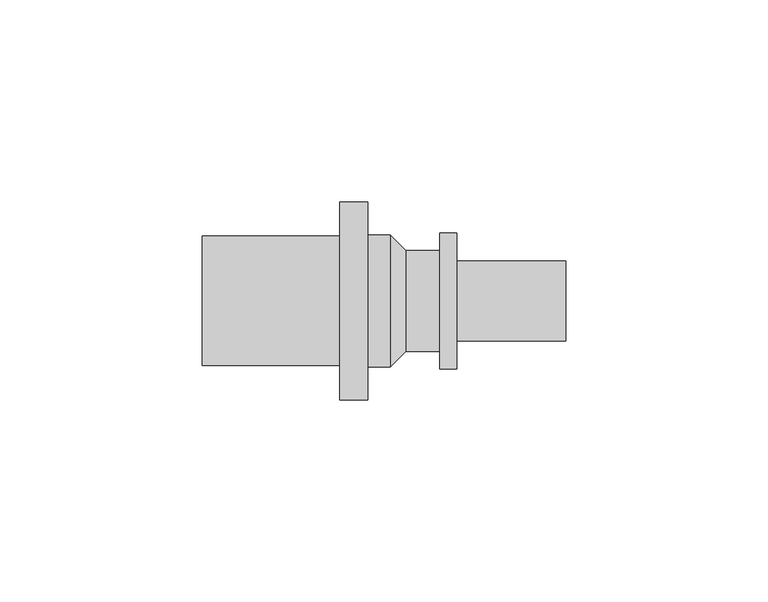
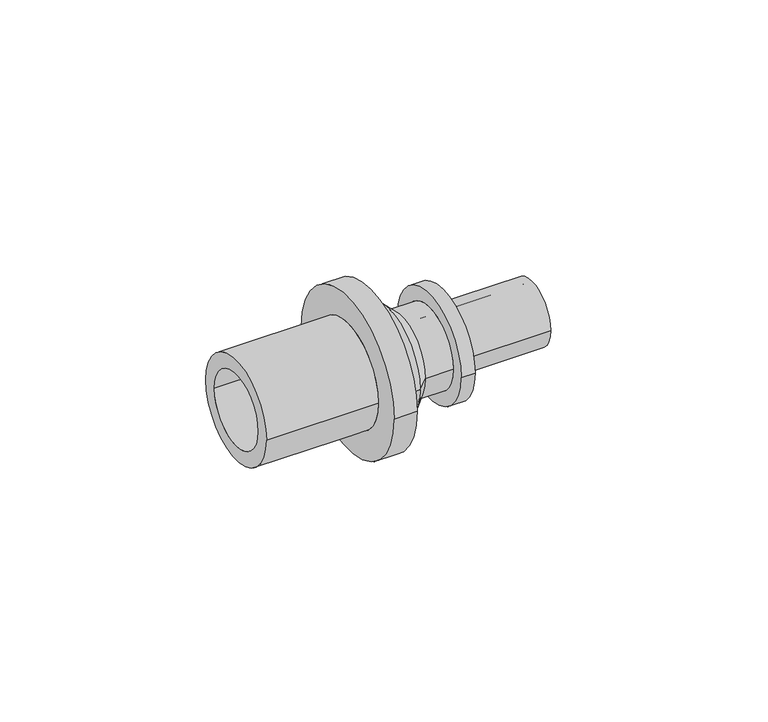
"""IFC4 building model written with IfcOpenShell, lengths in millimetres: pipe fitting geometry, RAUTITAN_Transition_LX : RTI LX Tr DE."""

from ifc_helpers import new_model, si_unit, frame, origin, place, context, project, spatial, polyline, circle_curve, source, transform, mapped, element, save
from ifc_brep_helpers import plane_surface, cylinder_surface, revolved_surface, advanced_brep


def pipe_fitting_59d7ee80(model_context):
    return source(origin(), model_context, "Body", "AdvancedBrep", [
        advanced_brep(
        [(-48.5, 11.5, 0.0), (-48.5, -11.5, 0.0), (-1.95, -11.5, 0.0), (-1.95, 11.5, 0.0), (-1.9, 16.3, 0.0), (-1.9, -16.3, 0.0), (-7.5, -16.3, 0.0), (-7.5, 16.3, 0.0), (1.9, 12.5, 0.0), (1.9, -12.5, 0.0), (10.3, 12.5, 0.0), (10.3, -12.5, 0.0), (14.5, 16.8, 0.0), (14.5, -16.8, 0.0), (10.3, -16.8, 0.0), (10.3, 16.8, 0.0), (41.5, 9.9, 0.0), (41.5, -9.9, 0.0), (14.5, -9.9, 0.0), (14.5, 9.9, 0.0), (1.95, 7.6, 0.0), (1.95, -7.6, 0.0), (41.5, -7.6, 0.0), (41.5, 7.6, 0.0), (-7.5, 24.5, 0.0), (-7.5, -24.5, 0.0), (-14.5, 16.0, 0.0), (-14.5, -16.0, 0.0), (-48.5, -16.0, 0.0), (-48.5, 16.0, 0.0), (-14.5, -24.5, 0.0), (-14.5, 24.5, 0.0)],
        [
            (0, 1, circle_curve(frame((-48.5, 0.0, 0.0), z_axis=(-1.0, 0.0, 0.0), x_axis=(0.0, -1.0, 0.0)), 11.5)),
            (1, 2),
            (2, 3, circle_curve(frame((-1.95, 0.0, 0.0), z_axis=(1.0, 0.0, 0.0), x_axis=(0.0, -1.0, 0.0)), 11.5)),
            (3, 0),
            (4, 5, circle_curve(frame((-1.9, 0.0, 0.0), z_axis=(-1.0, 0.0, 0.0), x_axis=(0.0, -1.0, 0.0)), 16.3)),
            (5, 6),
            (6, 7, circle_curve(frame((-7.5, 0.0, 0.0), z_axis=(1.0, 0.0, 0.0), x_axis=(0.0, -1.0, 0.0)), 16.3)),
            (7, 4),
            (8, 9, circle_curve(frame((1.9, 0.0, 0.0), z_axis=(-1.0, 0.0, 0.0), x_axis=(0.0, -1.0, 0.0)), 12.5)),
            (9, 5),
            (4, 8),
            (10, 11, circle_curve(frame((10.3, 0.0, 0.0), z_axis=(-1.0, 0.0, 0.0), x_axis=(0.0, -1.0, 0.0)), 12.5)),
            (11, 9),
            (8, 10),
            (12, 13, circle_curve(frame((14.5, 0.0, 0.0), z_axis=(-1.0, 0.0, 0.0), x_axis=(0.0, -1.0, 0.0)), 16.8)),
            (13, 14),
            (14, 15, circle_curve(frame((10.3, 0.0, 0.0), z_axis=(1.0, 0.0, 0.0), x_axis=(0.0, -1.0, 0.0)), 16.8)),
            (15, 12),
            (16, 17, circle_curve(frame((41.5, 0.0, 0.0), z_axis=(-1.0, 0.0, 0.0), x_axis=(0.0, -1.0, 0.0)), 9.9)),
            (17, 18),
            (18, 19, circle_curve(frame((14.5, 0.0, 0.0), z_axis=(1.0, 0.0, 0.0), x_axis=(0.0, -1.0, 0.0)), 9.9)),
            (19, 16),
            (20, 21, circle_curve(frame((1.95, 0.0, 0.0), z_axis=(-1.0, 0.0, 0.0), x_axis=(0.0, -1.0, 0.0)), 7.6)),
            (21, 22),
            (22, 23, circle_curve(frame((41.5, 0.0, 0.0), z_axis=(1.0, 0.0, 0.0), x_axis=(0.0, -1.0, 0.0)), 7.6)),
            (23, 20),
            (2, 21),
            (20, 3),
            (1, 0, circle_curve(frame((-48.5, 0.0, 0.0), z_axis=(-1.0, 0.0, 0.0), x_axis=(0.0, 1.0, 0.0)), 11.5)),
            (3, 2, circle_curve(frame((-1.95, 0.0, 0.0), z_axis=(1.0, 0.0, 0.0), x_axis=(0.0, 1.0, 0.0)), 11.5)),
            (24, 25, circle_curve(frame((-7.5, 0.0, 0.0), z_axis=(1.0, 0.0, 0.0), x_axis=(0.0, 1.0, 0.0)), 24.5)),
            (25, 24, circle_curve(frame((-7.5, 0.0, 0.0), z_axis=(1.0, 0.0, 0.0), x_axis=(0.0, -1.0, 0.0)), 24.5)),
            (6, 7, circle_curve(frame((-7.5, 0.0, 0.0), z_axis=(-1.0, 0.0, 0.0), x_axis=(0.0, 1.0, 0.0)), 16.3)),
            (5, 4, circle_curve(frame((-1.9, 0.0, 0.0), z_axis=(-1.0, 0.0, 0.0), x_axis=(0.0, 1.0, 0.0)), 16.3)),
            (9, 8, circle_curve(frame((1.9, 0.0, 0.0), z_axis=(-1.0, 0.0, 0.0), x_axis=(0.0, 1.0, 0.0)), 12.5)),
            (11, 10, circle_curve(frame((10.3, 0.0, 0.0), z_axis=(-1.0, 0.0, 0.0), x_axis=(0.0, 1.0, 0.0)), 12.5)),
            (14, 15, circle_curve(frame((10.3, 0.0, 0.0), z_axis=(-1.0, 0.0, 0.0), x_axis=(0.0, 1.0, 0.0)), 16.8)),
            (13, 12, circle_curve(frame((14.5, 0.0, 0.0), z_axis=(-1.0, 0.0, 0.0), x_axis=(0.0, 1.0, 0.0)), 16.8)),
            (18, 19, circle_curve(frame((14.5, 0.0, 0.0), z_axis=(-1.0, 0.0, 0.0), x_axis=(0.0, 1.0, 0.0)), 9.9)),
            (17, 16, circle_curve(frame((41.5, 0.0, 0.0), z_axis=(-1.0, 0.0, 0.0), x_axis=(0.0, 1.0, 0.0)), 9.9)),
            (22, 23, circle_curve(frame((41.5, 0.0, 0.0), z_axis=(-1.0, 0.0, 0.0), x_axis=(0.0, 1.0, 0.0)), 7.6)),
            (21, 20, circle_curve(frame((1.95, 0.0, 0.0), z_axis=(-1.0, 0.0, 0.0), x_axis=(0.0, 1.0, 0.0)), 7.6)),
            (26, 27, circle_curve(frame((-14.5, 0.0, 0.0), z_axis=(-1.0, 0.0, 0.0), x_axis=(0.0, -1.0, 0.0)), 16.0)),
            (27, 28),
            (28, 29, circle_curve(frame((-48.5, 0.0, 0.0), z_axis=(1.0, 0.0, 0.0), x_axis=(0.0, -1.0, 0.0)), 16.0)),
            (29, 26),
            (25, 30),
            (30, 31, circle_curve(frame((-14.5, 0.0, 0.0), z_axis=(1.0, 0.0, 0.0), x_axis=(0.0, -1.0, 0.0)), 24.5)),
            (31, 24),
            (28, 29, circle_curve(frame((-48.5, 0.0, 0.0), z_axis=(-1.0, 0.0, 0.0), x_axis=(0.0, 1.0, 0.0)), 16.0)),
            (27, 26, circle_curve(frame((-14.5, 0.0, 0.0), z_axis=(-1.0, 0.0, 0.0), x_axis=(0.0, 1.0, 0.0)), 16.0)),
            (30, 31, circle_curve(frame((-14.5, 0.0, 0.0), z_axis=(-1.0, 0.0, 0.0), x_axis=(0.0, 1.0, 0.0)), 24.5)),
        ],
        [
            revolved_surface(polyline([(-1.95, -11.5, 0.0), (-48.5, -11.5, 0.0)]), (0.0, 0.0, 0.0), (1.0, 0.0, 0.0)),
            cylinder_surface(frame((0.0, 0.0, 0.0), z_axis=(1.0, 0.0, 0.0), x_axis=(0.0, -1.0, 0.0)), 16.3),
            revolved_surface(polyline([(-1.9, -16.3, 0.0), (1.9, -12.5, 0.0)]), (0.0, 0.0, 0.0), (1.0, 0.0, 0.0)),
            cylinder_surface(frame((0.0, 0.0, 0.0), z_axis=(1.0, 0.0, 0.0), x_axis=(0.0, -1.0, 0.0)), 12.5),
            cylinder_surface(frame((0.0, 0.0, 0.0), z_axis=(1.0, 0.0, 0.0), x_axis=(0.0, -1.0, 0.0)), 16.8),
            cylinder_surface(frame((0.0, 0.0, 0.0), z_axis=(1.0, 0.0, 0.0), x_axis=(0.0, -1.0, 0.0)), 9.9),
            revolved_surface(polyline([(41.5, -7.6, 0.0), (1.95, -7.6, 0.0)]), (0.0, 0.0, 0.0), (1.0, 0.0, 0.0)),
            revolved_surface(polyline([(1.95, -7.6, 0.0), (-1.95, -11.5, 0.0)]), (0.0, 0.0, 0.0), (1.0, 0.0, 0.0)),
            revolved_surface(polyline([(-1.95, 11.5, 0.0), (-48.5, 11.5, 0.0)]), (0.0, 0.0, 0.0), (1.0, 0.0, 0.0)),
            plane_surface(frame((-7.5, 0.0, 0.0), z_axis=(1.0, 0.0, 0.0), x_axis=(0.0, 1.0, 0.0))),
            cylinder_surface(frame((0.0, 0.0, 0.0), z_axis=(1.0, 0.0, 0.0), x_axis=(0.0, 1.0, 0.0)), 16.3),
            revolved_surface(polyline([(-1.9, 16.3, 0.0), (1.9, 12.5, 0.0)]), (0.0, 0.0, 0.0), (1.0, 0.0, 0.0)),
            cylinder_surface(frame((0.0, 0.0, 0.0), z_axis=(1.0, 0.0, 0.0), x_axis=(0.0, 1.0, 0.0)), 12.5),
            plane_surface(frame((10.3, 0.0, 0.0), z_axis=(-1.0, 0.0, 0.0), x_axis=(0.0, 1.0, 0.0))),
            cylinder_surface(frame((0.0, 0.0, 0.0), z_axis=(1.0, 0.0, 0.0), x_axis=(0.0, 1.0, 0.0)), 16.8),
            plane_surface(frame((14.5, 0.0, 0.0), z_axis=(1.0, 0.0, 0.0), x_axis=(0.0, 1.0, 0.0))),
            cylinder_surface(frame((0.0, 0.0, 0.0), z_axis=(1.0, 0.0, 0.0), x_axis=(0.0, 1.0, 0.0)), 9.9),
            plane_surface(frame((41.5, 0.0, 0.0), z_axis=(1.0, 0.0, 0.0), x_axis=(0.0, 1.0, 0.0))),
            revolved_surface(polyline([(41.5, 7.6, 0.0), (1.95, 7.6, 0.0)]), (0.0, 0.0, 0.0), (1.0, 0.0, 0.0)),
            revolved_surface(polyline([(1.95, 7.6, 0.0), (-1.95, 11.5, 0.0)]), (0.0, 0.0, 0.0), (1.0, 0.0, 0.0)),
            cylinder_surface(frame((0.0, 0.0, 0.0), z_axis=(1.0, 0.0, 0.0), x_axis=(0.0, -1.0, 0.0)), 16.0),
            cylinder_surface(frame((0.0, 0.0, 0.0), z_axis=(1.0, 0.0, 0.0), x_axis=(0.0, -1.0, 0.0)), 24.5),
            plane_surface(frame((-48.5, 0.0, 0.0), z_axis=(-1.0, 0.0, 0.0), x_axis=(0.0, 1.0, 0.0))),
            cylinder_surface(frame((0.0, 0.0, 0.0), z_axis=(1.0, 0.0, 0.0), x_axis=(0.0, 1.0, 0.0)), 16.0),
            plane_surface(frame((-14.5, 0.0, 0.0), z_axis=(-1.0, 0.0, 0.0), x_axis=(0.0, 1.0, 0.0))),
            cylinder_surface(frame((0.0, 0.0, 0.0), z_axis=(1.0, 0.0, 0.0), x_axis=(0.0, 1.0, 0.0)), 24.5),
        ],
        [
            (0, [[1, 2, 3, 4]]),
            (1, [[5, 6, 7, 8]]),
            (2, [[9, 10, -5, 11]]),
            (3, [[12, 13, -9, 14]]),
            (4, [[15, 16, 17, 18]]),
            (5, [[19, 20, 21, 22]]),
            (6, [[23, 24, 25, 26]]),
            (7, [[-3, 27, -23, 28]]),
            (8, [[29, -4, 30, -2]]),
            (9, [[31, 32], [33, -7]]),
            (10, [[34, -8, -33, -6]]),
            (11, [[35, -11, -34, -10]]),
            (12, [[36, -14, -35, -13]]),
            (13, [[37, -17], [-36, -12]]),
            (14, [[38, -18, -37, -16]]),
            (15, [[-38, -15], [39, -21]]),
            (16, [[40, -22, -39, -20]]),
            (17, [[-40, -19], [41, -25]]),
            (18, [[42, -26, -41, -24]]),
            (19, [[-30, -28, -42, -27]]),
            (20, [[43, 44, 45, 46]]),
            (21, [[-32, 47, 48, 49]]),
            (22, [[50, -45], [-29, -1]]),
            (23, [[51, -46, -50, -44]]),
            (24, [[52, -48], [-51, -43]]),
            (25, [[-31, -49, -52, -47]]),
        ],
    ),
    ])


if __name__ == "__main__":
    model = new_model("IFC4")
    model_context = context("Model", 3, world=origin())
    ifc_project = project(units=[si_unit("LENGTHUNIT", "METRE", prefix="MILLI")], contexts=[model_context])
    site = spatial("IfcSite", under=ifc_project)
    building = spatial("IfcBuilding", under=site)
    placement = place(None, origin())
    pipe_fitting_shape = pipe_fitting_59d7ee80(model_context)
    element("IfcPipeFitting", 1, ObjectType="RAUTITAN_Transition_LX : RTI LX Tr DE", at=placement, inside=building, context=model_context, shape_type="MappedRepresentation", body=[
        mapped(pipe_fitting_shape, transform((0.0, 0.0, 0.0), x_axis=(1.0, 0.0, 0.0), y_axis=(0.0, 1.0, 0.0), z_axis=(0.0, 0.0, 1.0))),
    ])
    save(model, "model.ifc")
